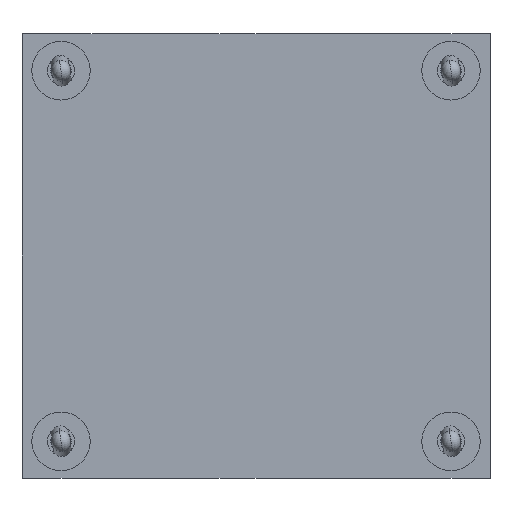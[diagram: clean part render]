
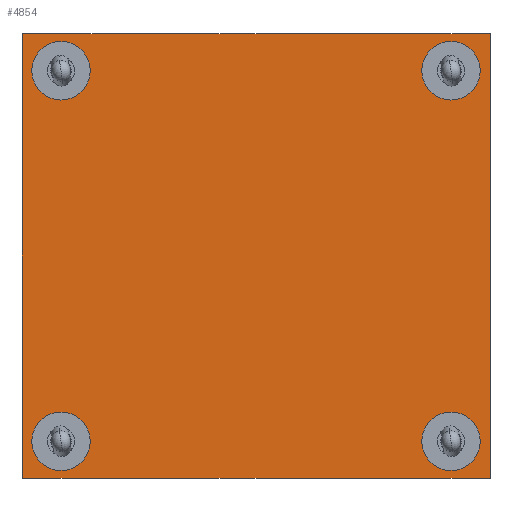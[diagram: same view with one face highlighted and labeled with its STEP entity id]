
A CAD part, front view. The second image highlights one B-rep face of the part: STEP entity #4854.
In plain terms, the highlighted planar face has unit normal (0, -1, 0).
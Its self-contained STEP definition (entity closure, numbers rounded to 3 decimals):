
#47 = DIRECTION ( 'NONE',  ( 0., 1., 0. ) ) ;
#303 = CARTESIAN_POINT ( 'NONE',  ( 36.36, 27.95, 77.786 ) ) ;
#326 = CARTESIAN_POINT ( 'NONE',  ( 41.44, 27.95, 82.612 ) ) ;
#885 = DIRECTION ( 'NONE',  ( 1., 0., 0. ) ) ;
#1361 = FACE_BOUND ( 'NONE', #7347, .T. ) ;
#1445 = CARTESIAN_POINT ( 'NONE',  ( -18.25, 27.95, 29.526 ) ) ;
#1534 = CARTESIAN_POINT ( 'NONE',  ( -14.44, 27.95, 29.526 ) ) ;
#1641 = ORIENTED_EDGE ( 'NONE', *, *, #11921, .T. ) ;
#1849 = DIRECTION ( 'NONE',  ( 0., 1., 0. ) ) ;
#1929 = VERTEX_POINT ( 'NONE', #20570 ) ;
#2306 = EDGE_CURVE ( 'NONE', #12716, #18871, #18818, .T. ) ;
#2665 = AXIS2_PLACEMENT_3D ( 'NONE', #4749, #21509, #885 ) ;
#3115 = ORIENTED_EDGE ( 'NONE', *, *, #3185, .T. ) ;
#3178 = EDGE_LOOP ( 'NONE', ( #3115, #23595 ) ) ;
#3185 = EDGE_CURVE ( 'NONE', #16525, #5433, #15611, .T. ) ;
#3698 = VECTOR ( 'NONE', #21221, 1000. ) ;
#3783 = LINE ( 'NONE', #17045, #10949 ) ;
#3803 = CARTESIAN_POINT ( 'NONE',  ( -10.63, 27.95, 29.526 ) ) ;
#3961 = DIRECTION ( 'NONE',  ( 1., 0., 0. ) ) ;
#4353 = ORIENTED_EDGE ( 'NONE', *, *, #5334, .F. ) ;
#4617 = EDGE_LOOP ( 'NONE', ( #1641, #16003 ) ) ;
#4664 = CIRCLE ( 'NONE', #15727, 3.81 ) ;
#4667 = LINE ( 'NONE', #8130, #15695 ) ;
#4749 = CARTESIAN_POINT ( 'NONE',  ( 36.36, 27.95, 29.526 ) ) ;
#4854 = ADVANCED_FACE ( 'NONE', ( #18381, #1361, #24099, #9060, #14644 ), #16613, .F. ) ;
#5334 = EDGE_CURVE ( 'NONE', #9430, #22181, #4667, .T. ) ;
#5433 = VERTEX_POINT ( 'NONE', #8745 ) ;
#5470 = DIRECTION ( 'NONE',  ( 0., 1., 0. ) ) ;
#5659 = VERTEX_POINT ( 'NONE', #6835 ) ;
#5957 = EDGE_CURVE ( 'NONE', #12411, #8544, #10819, .T. ) ;
#6104 = EDGE_CURVE ( 'NONE', #9845, #9430, #15380, .T. ) ;
#6441 = AXIS2_PLACEMENT_3D ( 'NONE', #1534, #5470, #22505 ) ;
#6810 = CARTESIAN_POINT ( 'NONE',  ( 41.44, 27.95, 24.7 ) ) ;
#6835 = CARTESIAN_POINT ( 'NONE',  ( -18.25, 27.95, 77.786 ) ) ;
#7045 = EDGE_CURVE ( 'NONE', #22181, #22008, #9663, .T. ) ;
#7347 = EDGE_LOOP ( 'NONE', ( #19073, #22593 ) ) ;
#7719 = AXIS2_PLACEMENT_3D ( 'NONE', #20224, #10913, #14641 ) ;
#8004 = DIRECTION ( 'NONE',  ( -1., 0., 0. ) ) ;
#8023 = CARTESIAN_POINT ( 'NONE',  ( -19.52, 27.95, 24.7 ) ) ;
#8091 = AXIS2_PLACEMENT_3D ( 'NONE', #24594, #12781, #13265 ) ;
#8130 = CARTESIAN_POINT ( 'NONE',  ( -19.52, 27.95, 24.7 ) ) ;
#8544 = VERTEX_POINT ( 'NONE', #1445 ) ;
#8745 = CARTESIAN_POINT ( 'NONE',  ( 40.17, 27.95, 77.786 ) ) ;
#9060 = FACE_BOUND ( 'NONE', #12746, .T. ) ;
#9215 = CARTESIAN_POINT ( 'NONE',  ( 32.55, 27.95, 77.786 ) ) ;
#9424 = CARTESIAN_POINT ( 'NONE',  ( 32.55, 27.95, 29.526 ) ) ;
#9430 = VERTEX_POINT ( 'NONE', #6810 ) ;
#9663 = LINE ( 'NONE', #17244, #3698 ) ;
#9710 = DIRECTION ( 'NONE',  ( 1., 0., 0. ) ) ;
#9822 = DIRECTION ( 'NONE',  ( 0., 0., -1. ) ) ;
#9845 = VERTEX_POINT ( 'NONE', #326 ) ;
#10819 = CIRCLE ( 'NONE', #6441, 3.81 ) ;
#10875 = AXIS2_PLACEMENT_3D ( 'NONE', #303, #12442, #15799 ) ;
#10913 = DIRECTION ( 'NONE',  ( 0., 1., 0. ) ) ;
#10949 = VECTOR ( 'NONE', #9710, 1000. ) ;
#11382 = CIRCLE ( 'NONE', #2665, 3.81 ) ;
#11399 = CIRCLE ( 'NONE', #13758, 3.81 ) ;
#11686 = CARTESIAN_POINT ( 'NONE',  ( 41.44, 27.95, 24.7 ) ) ;
#11921 = EDGE_CURVE ( 'NONE', #8544, #12411, #16897, .T. ) ;
#12118 = EDGE_CURVE ( 'NONE', #1929, #5659, #11399, .T. ) ;
#12407 = VECTOR ( 'NONE', #9822, 1000. ) ;
#12411 = VERTEX_POINT ( 'NONE', #3803 ) ;
#12442 = DIRECTION ( 'NONE',  ( 0., 1., 0. ) ) ;
#12716 = VERTEX_POINT ( 'NONE', #15629 ) ;
#12746 = EDGE_LOOP ( 'NONE', ( #23391, #19824 ) ) ;
#12781 = DIRECTION ( 'NONE',  ( 0., 1., 0. ) ) ;
#12840 = ORIENTED_EDGE ( 'NONE', *, *, #7045, .F. ) ;
#13265 = DIRECTION ( 'NONE',  ( 1., 0., 0. ) ) ;
#13511 = DIRECTION ( 'NONE',  ( 1., 0., 0. ) ) ;
#13758 = AXIS2_PLACEMENT_3D ( 'NONE', #17578, #15446, #3961 ) ;
#14451 = DIRECTION ( 'NONE',  ( 0., 1., 0. ) ) ;
#14641 = DIRECTION ( 'NONE',  ( 1., 0., 0. ) ) ;
#14644 = FACE_OUTER_BOUND ( 'NONE', #21000, .T. ) ;
#14915 = AXIS2_PLACEMENT_3D ( 'NONE', #24156, #14451, #16670 ) ;
#14961 = CARTESIAN_POINT ( 'NONE',  ( -14.44, 27.95, 77.786 ) ) ;
#15112 = ORIENTED_EDGE ( 'NONE', *, *, #22766, .F. ) ;
#15181 = DIRECTION ( 'NONE',  ( 1., 0., 0. ) ) ;
#15380 = LINE ( 'NONE', #11686, #12407 ) ;
#15446 = DIRECTION ( 'NONE',  ( 0., 1., 0. ) ) ;
#15611 = CIRCLE ( 'NONE', #10875, 3.81 ) ;
#15629 = CARTESIAN_POINT ( 'NONE',  ( 40.17, 27.95, 29.526 ) ) ;
#15695 = VECTOR ( 'NONE', #8004, 1000. ) ;
#15727 = AXIS2_PLACEMENT_3D ( 'NONE', #14961, #47, #15181 ) ;
#15799 = DIRECTION ( 'NONE',  ( 1., 0., 0. ) ) ;
#16002 = EDGE_CURVE ( 'NONE', #5433, #16525, #23613, .T. ) ;
#16003 = ORIENTED_EDGE ( 'NONE', *, *, #5957, .T. ) ;
#16084 = AXIS2_PLACEMENT_3D ( 'NONE', #17485, #1849, #13511 ) ;
#16485 = CARTESIAN_POINT ( 'NONE',  ( -19.52, 27.95, 82.612 ) ) ;
#16525 = VERTEX_POINT ( 'NONE', #9215 ) ;
#16613 = PLANE ( 'NONE',  #16084 ) ;
#16670 = DIRECTION ( 'NONE',  ( 1., 0., 0. ) ) ;
#16897 = CIRCLE ( 'NONE', #14915, 3.81 ) ;
#17045 = CARTESIAN_POINT ( 'NONE',  ( -19.52, 27.95, 82.612 ) ) ;
#17244 = CARTESIAN_POINT ( 'NONE',  ( -19.52, 27.95, 24.7 ) ) ;
#17485 = CARTESIAN_POINT ( 'NONE',  ( -19.52, 27.95, 24.7 ) ) ;
#17578 = CARTESIAN_POINT ( 'NONE',  ( -14.44, 27.95, 77.786 ) ) ;
#18381 = FACE_BOUND ( 'NONE', #4617, .T. ) ;
#18818 = CIRCLE ( 'NONE', #8091, 3.81 ) ;
#18871 = VERTEX_POINT ( 'NONE', #9424 ) ;
#19073 = ORIENTED_EDGE ( 'NONE', *, *, #19248, .T. ) ;
#19248 = EDGE_CURVE ( 'NONE', #5659, #1929, #4664, .T. ) ;
#19613 = ORIENTED_EDGE ( 'NONE', *, *, #6104, .F. ) ;
#19824 = ORIENTED_EDGE ( 'NONE', *, *, #2306, .T. ) ;
#20224 = CARTESIAN_POINT ( 'NONE',  ( 36.36, 27.95, 77.786 ) ) ;
#20570 = CARTESIAN_POINT ( 'NONE',  ( -10.63, 27.95, 77.786 ) ) ;
#21000 = EDGE_LOOP ( 'NONE', ( #12840, #4353, #19613, #15112 ) ) ;
#21221 = DIRECTION ( 'NONE',  ( 0., 0., 1. ) ) ;
#21509 = DIRECTION ( 'NONE',  ( 0., 1., 0. ) ) ;
#22008 = VERTEX_POINT ( 'NONE', #16485 ) ;
#22181 = VERTEX_POINT ( 'NONE', #8023 ) ;
#22505 = DIRECTION ( 'NONE',  ( 1., 0., 0. ) ) ;
#22593 = ORIENTED_EDGE ( 'NONE', *, *, #12118, .T. ) ;
#22766 = EDGE_CURVE ( 'NONE', #22008, #9845, #3783, .T. ) ;
#23355 = EDGE_CURVE ( 'NONE', #18871, #12716, #11382, .T. ) ;
#23391 = ORIENTED_EDGE ( 'NONE', *, *, #23355, .T. ) ;
#23595 = ORIENTED_EDGE ( 'NONE', *, *, #16002, .T. ) ;
#23613 = CIRCLE ( 'NONE', #7719, 3.81 ) ;
#24099 = FACE_BOUND ( 'NONE', #3178, .T. ) ;
#24156 = CARTESIAN_POINT ( 'NONE',  ( -14.44, 27.95, 29.526 ) ) ;
#24594 = CARTESIAN_POINT ( 'NONE',  ( 36.36, 27.95, 29.526 ) ) ;
